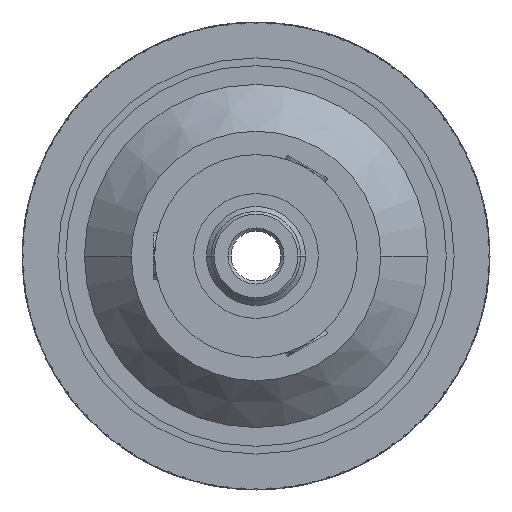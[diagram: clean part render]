
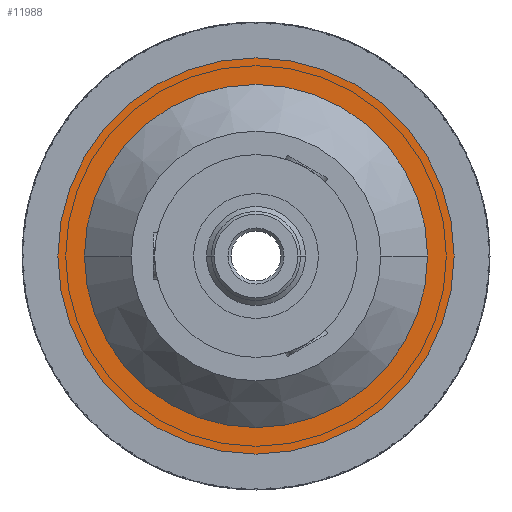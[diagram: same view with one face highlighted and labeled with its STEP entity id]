
A CAD part, left-side view. The second image highlights one B-rep face of the part: STEP entity #11988.
In plain terms, the highlighted planar face has unit normal (-1, 0, 0).
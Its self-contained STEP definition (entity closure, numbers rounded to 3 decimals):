
#2339=CARTESIAN_POINT('',(-14.75,0.,0.));
#2340=DIRECTION('',(-1.,0.,0.));
#2341=DIRECTION('',(0.,1.,0.));
#2342=AXIS2_PLACEMENT_3D('',#2339,#2340,#2341);
#2344=CARTESIAN_POINT('',(-14.75,0.,0.));
#2345=DIRECTION('',(-1.,0.,0.));
#2346=DIRECTION('',(0.,-1.,0.));
#2347=AXIS2_PLACEMENT_3D('',#2344,#2345,#2346);
#2349=CARTESIAN_POINT('',(-14.75,0.,0.));
#2350=DIRECTION('',(-1.,0.,0.));
#2351=DIRECTION('',(0.,1.,0.));
#2352=AXIS2_PLACEMENT_3D('',#2349,#2350,#2351);
#2354=CARTESIAN_POINT('',(-14.75,0.,0.));
#2355=DIRECTION('',(-1.,0.,0.));
#2356=DIRECTION('',(0.,-1.,0.));
#2357=AXIS2_PLACEMENT_3D('',#2354,#2355,#2356);
#8973=CARTESIAN_POINT('',(-14.75,12.7,0.));
#8974=CARTESIAN_POINT('',(-14.75,-12.7,0.));
#8975=VERTEX_POINT('',#8973);
#8976=VERTEX_POINT('',#8974);
#8981=CARTESIAN_POINT('',(-14.75,11.,0.));
#8982=CARTESIAN_POINT('',(-14.75,-11.,0.));
#8983=VERTEX_POINT('',#8981);
#8984=VERTEX_POINT('',#8982);
#11973=CARTESIAN_POINT('',(-14.75,0.,0.));
#11974=DIRECTION('',(-1.,0.,0.));
#11975=DIRECTION('',(0.,1.,0.));
#11976=AXIS2_PLACEMENT_3D('',#11973,#11974,#11975);
#11977=PLANE('',#11976);
#11978=ORIENTED_EDGE('',*,*,#11953,.F.);
#11979=ORIENTED_EDGE('',*,*,#11967,.F.);
#11980=EDGE_LOOP('',(#11978,#11979));
#11981=FACE_OUTER_BOUND('',#11980,.F.);
#11983=ORIENTED_EDGE('',*,*,#11982,.T.);
#11985=ORIENTED_EDGE('',*,*,#11984,.T.);
#11986=EDGE_LOOP('',(#11983,#11985));
#11987=FACE_BOUND('',#11986,.F.);
#11988=ADVANCED_FACE('',(#11981,#11987),#11977,.T.);
#2343=CIRCLE('',#2342,12.7);
#2348=CIRCLE('',#2347,12.7);
#2353=CIRCLE('',#2352,11.);
#2358=CIRCLE('',#2357,11.);
#11953=EDGE_CURVE('',#8975,#8976,#2343,.T.);
#11967=EDGE_CURVE('',#8976,#8975,#2348,.T.);
#11982=EDGE_CURVE('',#8983,#8984,#2353,.T.);
#11984=EDGE_CURVE('',#8984,#8983,#2358,.T.);
